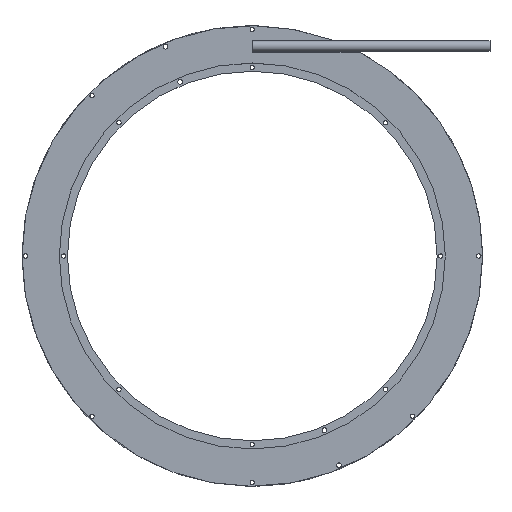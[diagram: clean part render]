
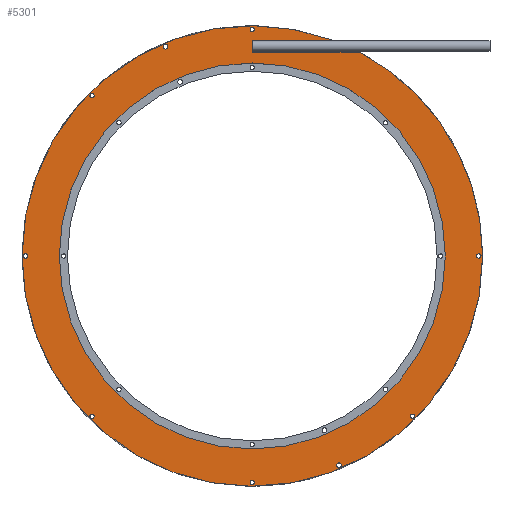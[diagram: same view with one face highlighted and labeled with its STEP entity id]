
A CAD part, top view. The second image highlights one B-rep face of the part: STEP entity #5301.
In plain terms, the highlighted planar face has unit normal (0, 0, 1) as drawn and (0, 0, -1) by its records, which use the part's own axes.
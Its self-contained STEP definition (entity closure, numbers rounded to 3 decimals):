
#5301=ADVANCED_FACE('',(#10651,#10653,#10655,#10657,#10659,#10661,#10663,#10665,
#10667,#10669,#10671),#10673,.F.);
#10651=FACE_BOUND('',#10652,.T.);
#10652=EDGE_LOOP('',(#15485,#15486,#15487,#15488,#15489));
#10653=FACE_BOUND('',#10654,.T.);
#10654=EDGE_LOOP('',(#15490));
#10655=FACE_BOUND('',#10656,.T.);
#10656=EDGE_LOOP('',(#15491));
#10657=FACE_BOUND('',#10658,.T.);
#10658=EDGE_LOOP('',(#15492));
#10659=FACE_BOUND('',#10660,.T.);
#10660=EDGE_LOOP('',(#15493));
#10661=FACE_BOUND('',#10662,.T.);
#10662=EDGE_LOOP('',(#15494));
#10663=FACE_BOUND('',#10664,.T.);
#10664=EDGE_LOOP('',(#15495));
#10665=FACE_BOUND('',#10666,.T.);
#10666=EDGE_LOOP('',(#15496));
#10667=FACE_BOUND('',#10668,.T.);
#10668=EDGE_LOOP('',(#15497));
#10669=FACE_BOUND('',#10670,.T.);
#10670=EDGE_LOOP('',(#15498));
#10671=FACE_BOUND('',#10672,.T.);
#10672=EDGE_LOOP('',(#15499));
#10673=PLANE('',#10674);
#10674=AXIS2_PLACEMENT_3D('',#10675,#10676,#10677);
#10675=CARTESIAN_POINT('',(0.,0.,0.));
#10676=DIRECTION('',(0.,0.,1.));
#10677=DIRECTION('',(-1.,0.,0.));
#15485=ORIENTED_EDGE('',*,*,#17974,.T.);
#15486=ORIENTED_EDGE('',*,*,#17968,.T.);
#15487=ORIENTED_EDGE('',*,*,#17975,.T.);
#15488=ORIENTED_EDGE('',*,*,#17976,.F.);
#15489=ORIENTED_EDGE('',*,*,#17977,.F.);
#15490=ORIENTED_EDGE('',*,*,#17978,.T.);
#15491=ORIENTED_EDGE('',*,*,#17979,.T.);
#15492=ORIENTED_EDGE('',*,*,#17980,.T.);
#15493=ORIENTED_EDGE('',*,*,#17981,.T.);
#15494=ORIENTED_EDGE('',*,*,#17982,.T.);
#15495=ORIENTED_EDGE('',*,*,#17983,.T.);
#15496=ORIENTED_EDGE('',*,*,#17984,.T.);
#15497=ORIENTED_EDGE('',*,*,#17985,.T.);
#15498=ORIENTED_EDGE('',*,*,#17986,.T.);
#15499=ORIENTED_EDGE('',*,*,#17987,.T.);
#17968=EDGE_CURVE('',#21778,#21779,#21780,.T.);
#17974=EDGE_CURVE('',#21790,#21778,#21791,.T.);
#17975=EDGE_CURVE('',#21779,#21792,#21793,.T.);
#17976=EDGE_CURVE('',#21794,#21792,#21795,.T.);
#17977=EDGE_CURVE('',#21790,#21794,#21796,.T.);
#17978=EDGE_CURVE('',#21797,#21797,#21798,.T.);
#17979=EDGE_CURVE('',#21799,#21799,#21800,.T.);
#17980=EDGE_CURVE('',#21801,#21801,#21802,.T.);
#17981=EDGE_CURVE('',#21803,#21803,#21804,.T.);
#17982=EDGE_CURVE('',#21805,#21805,#21806,.T.);
#17983=EDGE_CURVE('',#21807,#21807,#21808,.T.);
#17984=EDGE_CURVE('',#21809,#21809,#21810,.T.);
#17985=EDGE_CURVE('',#21811,#21811,#21812,.T.);
#17986=EDGE_CURVE('',#21813,#21813,#21814,.T.);
#17987=EDGE_CURVE('',#21815,#21815,#21816,.T.);
#21778=VERTEX_POINT('',#30826);
#21779=VERTEX_POINT('',#30827);
#21780=LINE('',#30828,#30829);
#21790=VERTEX_POINT('',#30852);
#21791=LINE('',#30853,#30854);
#21792=VERTEX_POINT('',#30856);
#21793=LINE('',#30857,#30858);
#21794=VERTEX_POINT('',#30860);
#21795=CIRCLE('',#30861,155.);
#21796=CIRCLE('',#30865,155.);
#21797=VERTEX_POINT('',#30869);
#21798=CIRCLE('',#30870,1.45);
#21799=VERTEX_POINT('',#30874);
#21800=CIRCLE('',#30875,1.45);
#21801=VERTEX_POINT('',#30879);
#21802=CIRCLE('',#30880,1.45);
#21803=VERTEX_POINT('',#30884);
#21804=CIRCLE('',#30885,1.45);
#21805=VERTEX_POINT('',#30889);
#21806=CIRCLE('',#30890,1.45);
#21807=VERTEX_POINT('',#30894);
#21808=CIRCLE('',#30895,1.45);
#21809=VERTEX_POINT('',#30899);
#21810=CIRCLE('',#30900,1.45);
#21811=VERTEX_POINT('',#30904);
#21812=CIRCLE('',#30905,1.6);
#21813=VERTEX_POINT('',#30909);
#21814=CIRCLE('',#30910,1.6);
#21815=VERTEX_POINT('',#30914);
#21816=CIRCLE('',#30915,129.9);
#30826=CARTESIAN_POINT('',(0.,137.3,0.));
#30827=CARTESIAN_POINT('',(0.,145.3,0.));
#30828=CARTESIAN_POINT('',(0.,137.3,0.));
#30829=VECTOR('',#30830,1.);
#30830=DIRECTION('',(0.,1.,0.));
#30852=CARTESIAN_POINT('',(-71.929,137.3,0.));
#30853=CARTESIAN_POINT('',(-71.929,137.3,0.));
#30854=VECTOR('',#30855,1.);
#30855=DIRECTION('',(1.,0.,0.));
#30856=CARTESIAN_POINT('',(-53.971,145.3,0.));
#30857=CARTESIAN_POINT('',(0.,145.3,0.));
#30858=VECTOR('',#30859,1.);
#30859=DIRECTION('',(-1.,0.,0.));
#30860=CARTESIAN_POINT('',(-155.,0.,0.));
#30861=AXIS2_PLACEMENT_3D('',#30862,#30863,#30864);
#30862=CARTESIAN_POINT('',(0.,0.,0.));
#30863=DIRECTION('',(0.,0.,1.));
#30864=DIRECTION('',(-1.,0.,0.));
#30865=AXIS2_PLACEMENT_3D('',#30866,#30867,#30868);
#30866=CARTESIAN_POINT('',(0.,0.,0.));
#30867=DIRECTION('',(0.,0.,1.));
#30868=DIRECTION('',(-0.464,0.886,0.));
#30869=CARTESIAN_POINT('',(-153.95,0.,0.));
#30870=AXIS2_PLACEMENT_3D('',#30871,#30872,#30873);
#30871=CARTESIAN_POINT('',(-152.5,0.,0.));
#30872=DIRECTION('',(0.,0.,1.));
#30873=DIRECTION('',(-1.,0.,0.));
#30874=CARTESIAN_POINT('',(151.05,0.,0.));
#30875=AXIS2_PLACEMENT_3D('',#30876,#30877,#30878);
#30876=CARTESIAN_POINT('',(152.5,0.,0.));
#30877=DIRECTION('',(0.,0.,1.));
#30878=DIRECTION('',(-1.,0.,0.));
#30879=CARTESIAN_POINT('',(-1.45,152.5,0.));
#30880=AXIS2_PLACEMENT_3D('',#30881,#30882,#30883);
#30881=CARTESIAN_POINT('',(0.,152.5,0.));
#30882=DIRECTION('',(0.,0.,1.));
#30883=DIRECTION('',(-1.,0.,0.));
#30884=CARTESIAN_POINT('',(-1.45,-152.5,0.));
#30885=AXIS2_PLACEMENT_3D('',#30886,#30887,#30888);
#30886=CARTESIAN_POINT('',(0.,-152.5,0.));
#30887=DIRECTION('',(0.,0.,1.));
#30888=DIRECTION('',(-1.,0.,0.));
#30889=CARTESIAN_POINT('',(106.384,107.834,0.));
#30890=AXIS2_PLACEMENT_3D('',#30891,#30892,#30893);
#30891=CARTESIAN_POINT('',(107.834,107.834,0.));
#30892=DIRECTION('',(0.,0.,1.));
#30893=DIRECTION('',(-1.,0.,0.));
#30894=CARTESIAN_POINT('',(-109.284,-107.834,0.));
#30895=AXIS2_PLACEMENT_3D('',#30896,#30897,#30898);
#30896=CARTESIAN_POINT('',(-107.834,-107.834,0.));
#30897=DIRECTION('',(0.,0.,1.));
#30898=DIRECTION('',(-1.,0.,0.));
#30899=CARTESIAN_POINT('',(106.384,-107.834,0.));
#30900=AXIS2_PLACEMENT_3D('',#30901,#30902,#30903);
#30901=CARTESIAN_POINT('',(107.834,-107.834,0.));
#30902=DIRECTION('',(0.,0.,1.));
#30903=DIRECTION('',(-1.,0.,0.));
#30904=CARTESIAN_POINT('',(-59.959,-140.892,0.));
#30905=AXIS2_PLACEMENT_3D('',#30906,#30907,#30908);
#30906=CARTESIAN_POINT('',(-58.359,-140.892,0.));
#30907=DIRECTION('',(0.,0.,1.));
#30908=DIRECTION('',(-1.,0.,0.));
#30909=CARTESIAN_POINT('',(56.759,140.892,0.));
#30910=AXIS2_PLACEMENT_3D('',#30911,#30912,#30913);
#30911=CARTESIAN_POINT('',(58.359,140.892,0.));
#30912=DIRECTION('',(0.,0.,1.));
#30913=DIRECTION('',(-1.,0.,0.));
#30914=CARTESIAN_POINT('',(-129.9,0.,0.));
#30915=AXIS2_PLACEMENT_3D('',#30916,#30917,#30918);
#30916=CARTESIAN_POINT('',(0.,0.,0.));
#30917=DIRECTION('',(0.,0.,1.));
#30918=DIRECTION('',(-1.,0.,0.));
